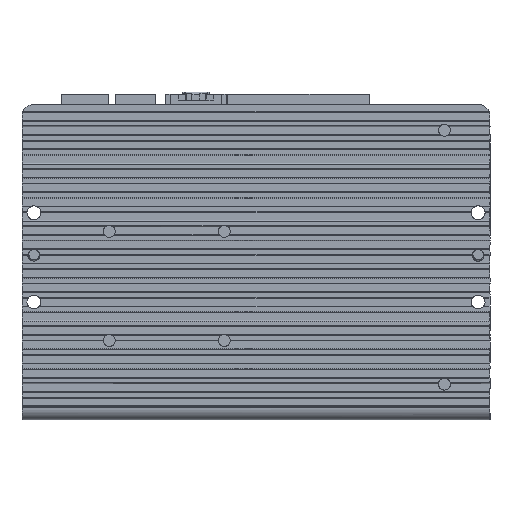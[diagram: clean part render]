
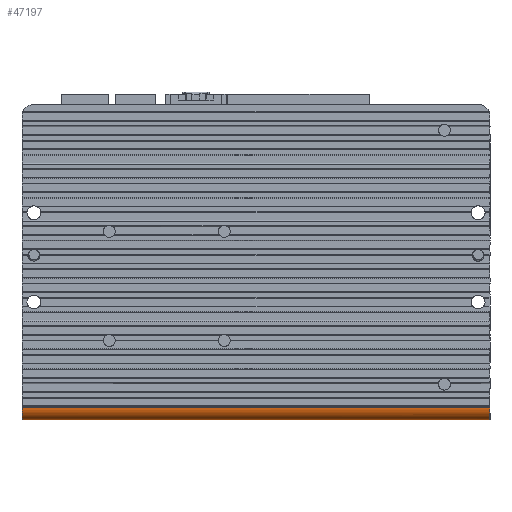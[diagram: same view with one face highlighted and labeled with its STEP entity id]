
A CAD part, front view. The second image highlights one B-rep face of the part: STEP entity #47197.
In plain terms, the highlighted cylindrical face has radius 3 mm (diameter 6 mm), a partial arc.
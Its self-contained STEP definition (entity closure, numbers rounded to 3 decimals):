
#27 = CARTESIAN_POINT ( 'NONE',  ( 59., -8.2, -74. ) ) ;
#835 = CARTESIAN_POINT ( 'NONE',  ( -59., -8.2, -74. ) ) ;
#2837 = CARTESIAN_POINT ( 'NONE',  ( -59., -5.593, -77. ) ) ;
#5542 = EDGE_CURVE ( 'NONE', #64216, #112198, #67000, .T. ) ;
#7397 = CARTESIAN_POINT ( 'NONE',  ( 59., -8.2, -74. ) ) ;
#9728 = ORIENTED_EDGE ( 'NONE', *, *, #118148, .F. ) ;
#14490 = DIRECTION ( 'NONE',  ( -1., 0., 0. ) ) ;
#16582 = CARTESIAN_POINT ( 'NONE',  ( -59., -5.2, -77. ) ) ;
#18654 = CYLINDRICAL_SURFACE ( 'NONE', #84142, 3. ) ;
#23490 = CARTESIAN_POINT ( 'NONE',  ( 59., -8.2, -74. ) ) ;
#25056 = CARTESIAN_POINT ( 'NONE',  ( -59., -8.2, -74. ) ) ;
#38157 = CARTESIAN_POINT ( 'NONE',  ( 59., -5.2, -74. ) ) ;
#39320 = CARTESIAN_POINT ( 'NONE',  ( 19.667, -5.2, -77. ) ) ;
#40452 = CARTESIAN_POINT ( 'NONE',  ( 59., -5.2, -77. ) ) ;
#40951 = CARTESIAN_POINT ( 'NONE',  ( 59., -5.985, -76.922 ) ) ;
#45343 = ORIENTED_EDGE ( 'NONE', *, *, #106521, .T. ) ;
#45694 = CARTESIAN_POINT ( 'NONE',  ( -19.667, -8.2, -74. ) ) ;
#47197 = ADVANCED_FACE ( 'NONE', ( #108963 ), #18654, .T. ) ;
#47720 = CARTESIAN_POINT ( 'NONE',  ( -59., -7.821, -75.511 ) ) ;
#52323 = CARTESIAN_POINT ( 'NONE',  ( 59., -7.044, -76.399 ) ) ;
#57129 = EDGE_LOOP ( 'NONE', ( #45343, #9728, #145310, #64854 ) ) ;
#59128 = CARTESIAN_POINT ( 'NONE',  ( -59., -7.044, -76.399 ) ) ;
#63719 = CARTESIAN_POINT ( 'NONE',  ( 59., -7.821, -75.511 ) ) ;
#64216 = VERTEX_POINT ( 'NONE', #111162 ) ;
#64854 = ORIENTED_EDGE ( 'NONE', *, *, #5542, .T. ) ;
#67000 = B_SPLINE_CURVE_WITH_KNOTS ( 'NONE', 3,
 ( #16582, #84390, #39320, #118441 ),
 .UNSPECIFIED., .F., .F.,
 ( 4, 4 ),
 ( 0., 1. ),
 .UNSPECIFIED. ) ;
#70564 = CARTESIAN_POINT ( 'NONE',  ( -59., -5.985, -76.922 ) ) ;
#72447 = VERTEX_POINT ( 'NONE', #27 ) ;
#75167 = CARTESIAN_POINT ( 'NONE',  ( 59., -8.2, -74.393 ) ) ;
#81435 = CARTESIAN_POINT ( 'NONE',  ( -59., -8.2, -74.393 ) ) ;
#81934 = CARTESIAN_POINT ( 'NONE',  ( -59., -5.2, -77. ) ) ;
#82278 = DIRECTION ( 'NONE',  ( 0., 0., 1. ) ) ;
#84142 = AXIS2_PLACEMENT_3D ( 'NONE', #38157, #14490, #82278 ) ;
#84390 = CARTESIAN_POINT ( 'NONE',  ( -19.667, -5.2, -77. ) ) ;
#88361 = CARTESIAN_POINT ( 'NONE',  ( -59., -8.2, -74. ) ) ;
#91254 = CARTESIAN_POINT ( 'NONE',  ( 19.667, -8.2, -74. ) ) ;
#95458 = CARTESIAN_POINT ( 'NONE',  ( 59., -5.593, -77. ) ) ;
#103927 = B_SPLINE_CURVE_WITH_KNOTS ( 'NONE', 3,
 ( #25056, #81435, #115515, #47720, #126891, #59128, #138202, #70564, #2837, #81934 ),
 .UNSPECIFIED., .F., .F.,
 ( 4, 2, 2, 2, 4 ),
 ( 0., 0.25, 0.5, 0.75, 1. ),
 .UNSPECIFIED. ) ;
#106521 = EDGE_CURVE ( 'NONE', #112198, #72447, #127053, .T. ) ;
#108963 = FACE_OUTER_BOUND ( 'NONE', #57129, .T. ) ;
#111162 = CARTESIAN_POINT ( 'NONE',  ( -59., -5.2, -77. ) ) ;
#112198 = VERTEX_POINT ( 'NONE', #121739 ) ;
#115515 = CARTESIAN_POINT ( 'NONE',  ( -59., -8.122, -74.785 ) ) ;
#118148 = EDGE_CURVE ( 'NONE', #134932, #72447, #134856, .T. ) ;
#118441 = CARTESIAN_POINT ( 'NONE',  ( 59., -5.2, -77. ) ) ;
#120088 = CARTESIAN_POINT ( 'NONE',  ( 59., -6.711, -76.621 ) ) ;
#121739 = CARTESIAN_POINT ( 'NONE',  ( 59., -5.2, -77. ) ) ;
#126891 = CARTESIAN_POINT ( 'NONE',  ( -59., -7.599, -75.844 ) ) ;
#127053 = B_SPLINE_CURVE_WITH_KNOTS ( 'NONE', 3,
 ( #40452, #95458, #40951, #120088, #52323, #131437, #63719, #142778, #75167, #7397 ),
 .UNSPECIFIED., .F., .F.,
 ( 4, 2, 2, 2, 4 ),
 ( 0., 0.25, 0.5, 0.75, 1. ),
 .UNSPECIFIED. ) ;
#131143 = EDGE_CURVE ( 'NONE', #134932, #64216, #103927, .T. ) ;
#131437 = CARTESIAN_POINT ( 'NONE',  ( 59., -7.599, -75.844 ) ) ;
#134856 = B_SPLINE_CURVE_WITH_KNOTS ( 'NONE', 3,
 ( #835, #45694, #91254, #23490 ),
 .UNSPECIFIED., .F., .F.,
 ( 4, 4 ),
 ( 0., 1. ),
 .UNSPECIFIED. ) ;
#134932 = VERTEX_POINT ( 'NONE', #88361 ) ;
#138202 = CARTESIAN_POINT ( 'NONE',  ( -59., -6.711, -76.621 ) ) ;
#142778 = CARTESIAN_POINT ( 'NONE',  ( 59., -8.122, -74.785 ) ) ;
#145310 = ORIENTED_EDGE ( 'NONE', *, *, #131143, .T. ) ;
